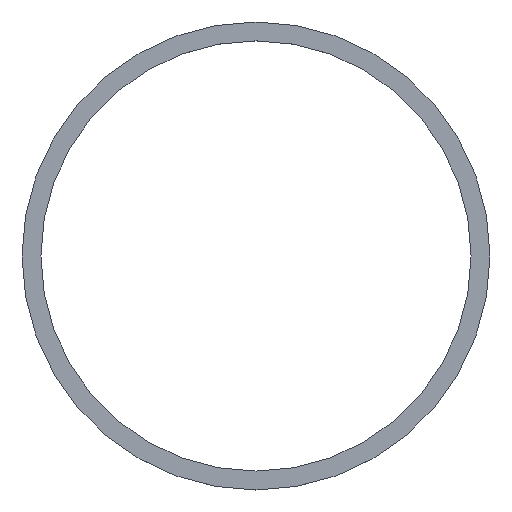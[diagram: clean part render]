
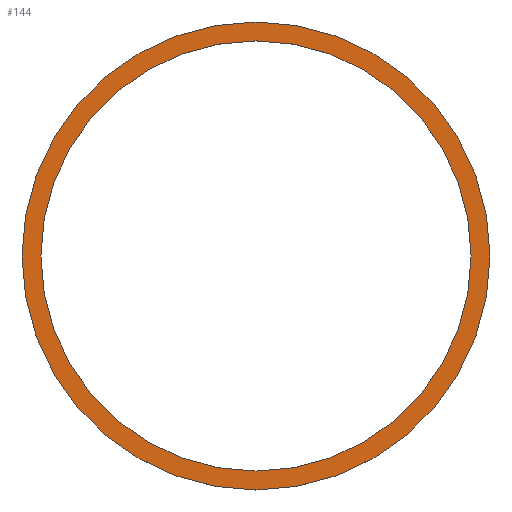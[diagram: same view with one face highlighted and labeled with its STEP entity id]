
A CAD part, top view. The second image highlights one B-rep face of the part: STEP entity #144.
In plain terms, the highlighted planar face has unit normal (0, 0, 1).
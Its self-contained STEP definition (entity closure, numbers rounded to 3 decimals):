
#31 = CYLINDRICAL_SURFACE('',#32,19.8);
#32 = AXIS2_PLACEMENT_3D('',#33,#34,#35);
#33 = CARTESIAN_POINT('',(0.,43.,10.2));
#34 = DIRECTION('',(0.,-0.,-1.));
#35 = DIRECTION('',(0.,1.,0.));
#56 = VERTEX_POINT('',#57);
#57 = CARTESIAN_POINT('',(0.,62.8,10.9));
#78 = EDGE_CURVE('',#56,#56,#79,.T.);
#79 = SURFACE_CURVE('',#80,(#85,#92),.PCURVE_S1.);
#80 = CIRCLE('',#81,19.8);
#81 = AXIS2_PLACEMENT_3D('',#82,#83,#84);
#82 = CARTESIAN_POINT('',(0.,43.,10.9));
#83 = DIRECTION('',(0.,-0.,1.));
#84 = DIRECTION('',(0.,1.,0.));
#85 = PCURVE('',#31,#86);
#86 = DEFINITIONAL_REPRESENTATION('',(#87),#91);
#87 = LINE('',#88,#89);
#88 = CARTESIAN_POINT('',(6.283,-0.7));
#89 = VECTOR('',#90,1.);
#90 = DIRECTION('',(-1.,0.));
#91 = ( GEOMETRIC_REPRESENTATION_CONTEXT(2) 
PARAMETRIC_REPRESENTATION_CONTEXT() REPRESENTATION_CONTEXT('2D SPACE',''
  ) );
#92 = PCURVE('',#93,#98);
#93 = PLANE('',#94);
#94 = AXIS2_PLACEMENT_3D('',#95,#96,#97);
#95 = CARTESIAN_POINT('',(0.,43.,10.9));
#96 = DIRECTION('',(0.,0.,1.));
#97 = DIRECTION('',(0.,1.,-0.));
#98 = DEFINITIONAL_REPRESENTATION('',(#99),#103);
#99 = CIRCLE('',#100,19.8);
#100 = AXIS2_PLACEMENT_2D('',#101,#102);
#101 = CARTESIAN_POINT('',(0.,0.));
#102 = DIRECTION('',(1.,0.));
#103 = ( GEOMETRIC_REPRESENTATION_CONTEXT(2) 
PARAMETRIC_REPRESENTATION_CONTEXT() REPRESENTATION_CONTEXT('2D SPACE',''
  ) );
#133 = CYLINDRICAL_SURFACE('',#134,18.2);
#134 = AXIS2_PLACEMENT_3D('',#135,#136,#137);
#135 = CARTESIAN_POINT('',(0.,43.,10.));
#136 = DIRECTION('',(0.,-0.,-1.));
#137 = DIRECTION('',(0.,1.,0.));
#144 = ADVANCED_FACE('',(#145,#148),#93,.T.);
#145 = FACE_BOUND('',#146,.T.);
#146 = EDGE_LOOP('',(#147));
#147 = ORIENTED_EDGE('',*,*,#78,.T.);
#148 = FACE_BOUND('',#149,.T.);
#149 = EDGE_LOOP('',(#150));
#150 = ORIENTED_EDGE('',*,*,#151,.T.);
#151 = EDGE_CURVE('',#152,#152,#154,.T.);
#152 = VERTEX_POINT('',#153);
#153 = CARTESIAN_POINT('',(0.,61.2,10.9));
#154 = SURFACE_CURVE('',#155,(#160,#171),.PCURVE_S1.);
#155 = CIRCLE('',#156,18.2);
#156 = AXIS2_PLACEMENT_3D('',#157,#158,#159);
#157 = CARTESIAN_POINT('',(0.,43.,10.9));
#158 = DIRECTION('',(0.,0.,-1.));
#159 = DIRECTION('',(0.,1.,0.));
#160 = PCURVE('',#93,#161);
#161 = DEFINITIONAL_REPRESENTATION('',(#162),#170);
#162 = ( BOUNDED_CURVE() B_SPLINE_CURVE(2,(#163,#164,#165,#166,#167,#168
,#169),.UNSPECIFIED.,.T.,.F.) B_SPLINE_CURVE_WITH_KNOTS((1,2,2,2,2,1),(
    -2.094,0.,2.094,4.189,6.283,
8.378),.UNSPECIFIED.) CURVE() GEOMETRIC_REPRESENTATION_ITEM() 
RATIONAL_B_SPLINE_CURVE((1.,0.5,1.,0.5,1.,0.5,1.)) REPRESENTATION_ITEM(
  '') );
#163 = CARTESIAN_POINT('',(18.2,0.));
#164 = CARTESIAN_POINT('',(18.2,-31.523));
#165 = CARTESIAN_POINT('',(-9.1,-15.762));
#166 = CARTESIAN_POINT('',(-36.4,0.));
#167 = CARTESIAN_POINT('',(-9.1,15.762));
#168 = CARTESIAN_POINT('',(18.2,31.523));
#169 = CARTESIAN_POINT('',(18.2,0.));
#170 = ( GEOMETRIC_REPRESENTATION_CONTEXT(2) 
PARAMETRIC_REPRESENTATION_CONTEXT() REPRESENTATION_CONTEXT('2D SPACE',''
  ) );
#171 = PCURVE('',#133,#172);
#172 = DEFINITIONAL_REPRESENTATION('',(#173),#177);
#173 = LINE('',#174,#175);
#174 = CARTESIAN_POINT('',(0.,-0.9));
#175 = VECTOR('',#176,1.);
#176 = DIRECTION('',(1.,-0.));
#177 = ( GEOMETRIC_REPRESENTATION_CONTEXT(2) 
PARAMETRIC_REPRESENTATION_CONTEXT() REPRESENTATION_CONTEXT('2D SPACE',''
  ) );
